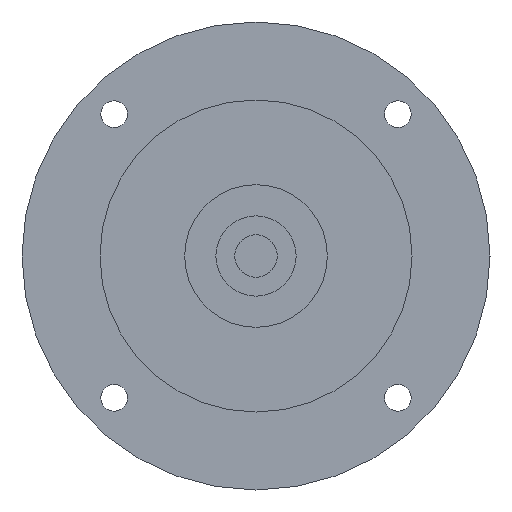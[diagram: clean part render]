
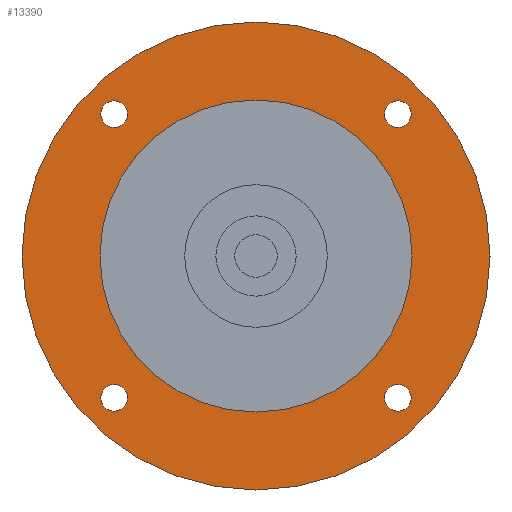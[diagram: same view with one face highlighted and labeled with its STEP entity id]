
A CAD part, left-side view. The second image highlights one B-rep face of the part: STEP entity #13390.
In plain terms, the highlighted planar face has unit normal (-1, 0, 0) as drawn and (0, 0, -1) by its records, which use the part's own axes.
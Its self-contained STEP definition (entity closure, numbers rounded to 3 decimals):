
#12230=CARTESIAN_POINT('',(-31.82,-28.82,-49.2));
#12240=VERTEX_POINT('',#12230);
#12270=CARTESIAN_POINT('',(-31.82,-31.82,-49.2));
#12280=DIRECTION('',(0.,0.,-1.));
#12290=DIRECTION('',(0.,-1.,0.));
#12300=AXIS2_PLACEMENT_3D('',#12270,#12280,#12290);
#12310=CIRCLE('',#12300,3.);
#12320=CARTESIAN_POINT('',(-31.82,-34.82,-49.2));
#12330=VERTEX_POINT('',#12320);
#12340=EDGE_CURVE('',#12330,#12240,#12310,.T.);
#12460=CARTESIAN_POINT('',(0.,0.,
-49.2));
#12470=DIRECTION('',(0.,0.,-1.));
#12480=DIRECTION('',(1.,0.,0.));
#12490=AXIS2_PLACEMENT_3D('',#12460,#12470,#12480);
#12500=PLANE('',#12490);
#12510=CARTESIAN_POINT('',(31.82,-31.82,-49.2));
#12520=DIRECTION('',(0.,0.,-1.));
#12530=DIRECTION('',(1.,0.,0.));
#12540=AXIS2_PLACEMENT_3D('',#12510,#12520,#12530);
#12550=CIRCLE('',#12540,3.);
#12560=CARTESIAN_POINT('',(34.82,-31.82,-49.2));
#12570=VERTEX_POINT('',#12560);
#12580=CARTESIAN_POINT('',(28.82,-31.82,-49.2));
#12590=VERTEX_POINT('',#12580);
#12600=EDGE_CURVE('',#12570,#12590,#12550,.T.);
#12610=ORIENTED_EDGE('',*,*,#12600,.F.);
#12620=EDGE_CURVE('',#12590,#12570,#12550,.T.);
#12630=ORIENTED_EDGE('',*,*,#12620,.F.);
#12640=EDGE_LOOP('',(#12630,#12610));
#12650=FACE_BOUND('',#12640,.T.);
#12660=CARTESIAN_POINT('',(0.,0.,
-49.2));
#12670=DIRECTION('',(0.,0.,-1.));
#12680=DIRECTION('',(0.,-1.,0.));
#12690=AXIS2_PLACEMENT_3D('',#12660,#12670,#12680);
#12700=CIRCLE('',#12690,52.5);
#12710=CARTESIAN_POINT('',(-52.5,0.,-49.2));
#12720=VERTEX_POINT('',#12710);
#12730=CARTESIAN_POINT('',(52.5,0.,-49.2));
#12740=VERTEX_POINT('',#12730);
#12750=EDGE_CURVE('',#12720,#12740,#12700,.T.);
#12760=ORIENTED_EDGE('',*,*,#12750,.T.);
#12770=CARTESIAN_POINT('',(0.,-52.5,-49.2));
#12780=VERTEX_POINT('',#12770);
#12790=EDGE_CURVE('',#12780,#12720,#12700,.T.);
#12800=ORIENTED_EDGE('',*,*,#12790,.T.);
#12810=EDGE_CURVE('',#12740,#12780,#12700,.T.);
#12820=ORIENTED_EDGE('',*,*,#12810,.T.);
#12830=EDGE_LOOP('',(#12820,#12800,#12760));
#12840=FACE_OUTER_BOUND('',#12830,.T.);
#12850=CARTESIAN_POINT('',(31.82,31.82,-49.2));
#12860=DIRECTION('',(0.,0.,-1.));
#12870=DIRECTION('',(0.,1.,0.));
#12880=AXIS2_PLACEMENT_3D('',#12850,#12860,#12870);
#12890=CIRCLE('',#12880,3.);
#12900=CARTESIAN_POINT('',(31.82,34.82,-49.2));
#12910=VERTEX_POINT('',#12900);
#12920=CARTESIAN_POINT('',(31.82,28.82,-49.2));
#12930=VERTEX_POINT('',#12920);
#12940=EDGE_CURVE('',#12910,#12930,#12890,.T.);
#12950=ORIENTED_EDGE('',*,*,#12940,.F.);
#12960=EDGE_CURVE('',#12930,#12910,#12890,.T.);
#12970=ORIENTED_EDGE('',*,*,#12960,.F.);
#12980=EDGE_LOOP('',(#12970,#12950));
#12990=FACE_BOUND('',#12980,.T.);
#13000=CARTESIAN_POINT('',(-31.82,31.82,-49.2));
#13010=DIRECTION('',(0.,0.,-1.));
#13020=DIRECTION('',(-1.,0.,0.));
#13030=AXIS2_PLACEMENT_3D('',#13000,#13010,#13020);
#13040=CIRCLE('',#13030,3.);
#13050=CARTESIAN_POINT('',(-34.82,31.82,-49.2));
#13060=VERTEX_POINT('',#13050);
#13070=CARTESIAN_POINT('',(-28.82,31.82,-49.2));
#13080=VERTEX_POINT('',#13070);
#13090=EDGE_CURVE('',#13060,#13080,#13040,.T.);
#13100=ORIENTED_EDGE('',*,*,#13090,.F.);
#13110=EDGE_CURVE('',#13080,#13060,#13040,.T.);
#13120=ORIENTED_EDGE('',*,*,#13110,.F.);
#13130=EDGE_LOOP('',(#13120,#13100));
#13140=FACE_BOUND('',#13130,.T.);
#13150=ORIENTED_EDGE('',*,*,#12340,.F.);
#13160=EDGE_CURVE('',#12240,#12330,#12310,.T.);
#13170=ORIENTED_EDGE('',*,*,#13160,.F.);
#13180=EDGE_LOOP('',(#13170,#13150));
#13190=FACE_BOUND('',#13180,.T.);
#13200=CARTESIAN_POINT('',(0.,0.,
-49.2));
#13210=DIRECTION('',(0.,0.,1.));
#13220=DIRECTION('',(0.,1.,0.));
#13230=AXIS2_PLACEMENT_3D('',#13200,#13210,#13220);
#13240=CIRCLE('',#13230,35.);
#13250=CARTESIAN_POINT('',(-35.,0.,-49.2));
#13260=VERTEX_POINT('',#13250);
#13270=CARTESIAN_POINT('',(35.,0.,-49.2));
#13280=VERTEX_POINT('',#13270);
#13290=EDGE_CURVE('',#13260,#13280,#13240,.T.);
#13300=ORIENTED_EDGE('',*,*,#13290,.T.);
#13310=CARTESIAN_POINT('',(0.,35.,-49.2));
#13320=VERTEX_POINT('',#13310);
#13330=EDGE_CURVE('',#13320,#13260,#13240,.T.);
#13340=ORIENTED_EDGE('',*,*,#13330,.T.);
#13350=EDGE_CURVE('',#13280,#13320,#13240,.T.);
#13360=ORIENTED_EDGE('',*,*,#13350,.T.);
#13370=EDGE_LOOP('',(#13360,#13340,#13300));
#13380=FACE_BOUND('',#13370,.T.);
#13390=ADVANCED_FACE('',(#12650,#12840,#12990,#13140,#13190,#13380),
#12500,.T.);
